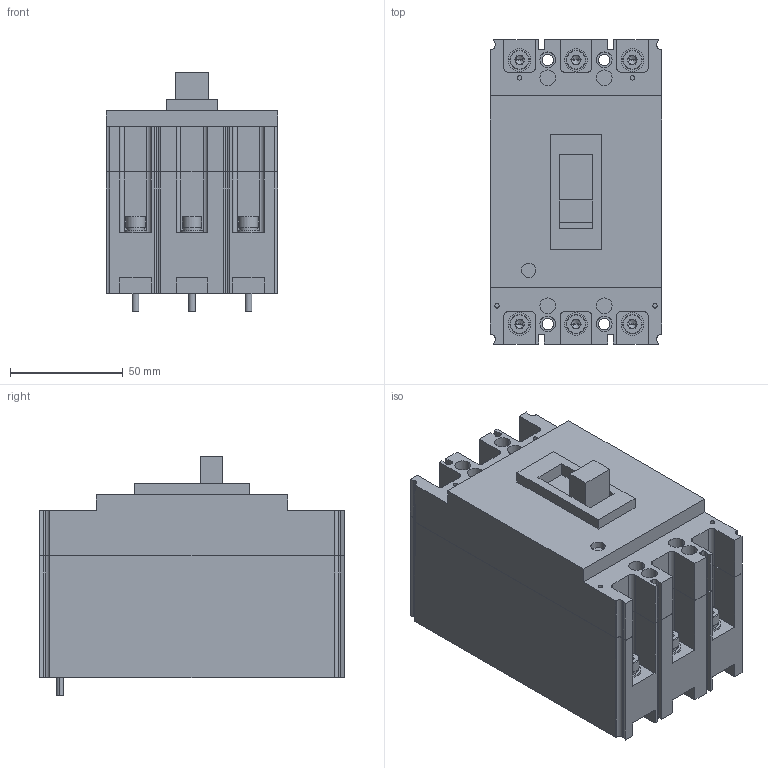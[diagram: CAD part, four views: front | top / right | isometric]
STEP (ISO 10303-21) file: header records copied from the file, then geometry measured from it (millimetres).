
FILE_DESCRIPTION (( 'STEP AP203' ), '1' );
FILE_NAME ('63-3P剿繚ん.STEP', '2019-04-24T08:50:36', ( 'User' ), ( 'china' ), 'SwSTEP 2.0', 'SolidWorks 2011', '' );
FILE_SCHEMA (( 'CONFIG_CONTROL_DESIGN' ));
Length unit declared in the file: millimetre
Products named in the file (9): 63-3P剿繚ん; hexagon socket head cap screws gb_GB_FASTENER_SCREWS_HSHCS M5X16-N; spring lock washers--normal type gb_GB_FASTENER_WASHER_SW 5; plain washers--product grade c gb_GB_FASTENER_WASHER_SMWC 5; GB 9074 M5x16; 絳盄1ㄗ酴ㄘ; 絳盄1ㄗ蟯ㄘ; 絳盄1ㄗ綻ㄘ
Assembly tree (13 placements, depth 3):
  63-3P剿繚ん
    63-3P剿繚ん
    絳盄1ㄗ酴ㄘ
    絳盄1ㄗ綻ㄘ
    絳盄1ㄗ蟯ㄘ
    GB 9074 M5x16  x6
      plain washers--product grade c gb_GB_FASTENER_WASHER_SMWC 5
      spring lock washers--normal type gb_GB_FASTENER_WASHER_SW 5
      hexagon socket head cap screws gb_GB_FASTENER_SCREWS_HSHCS M5X16-N
Bounding box: 76 x 135 x 106 mm (x, y, z)
Volume: 721586.2 mm3; surface area: 100275.3 mm2
Topology: 23 solids, 23 shells, 564 faces, 1418 edges, 918 vertices
Faces by surface type: plane 318, cylinder 210, cone 24, torus 12
Entity records: 12381 total; most frequent: DIRECTION 1998, CARTESIAN_POINT 1977, ORIENTED_EDGE 1912, EDGE_CURVE 956, AXIS2_PLACEMENT_3D 670, LINE 658, VECTOR 658, VERTEX_POINT 633
